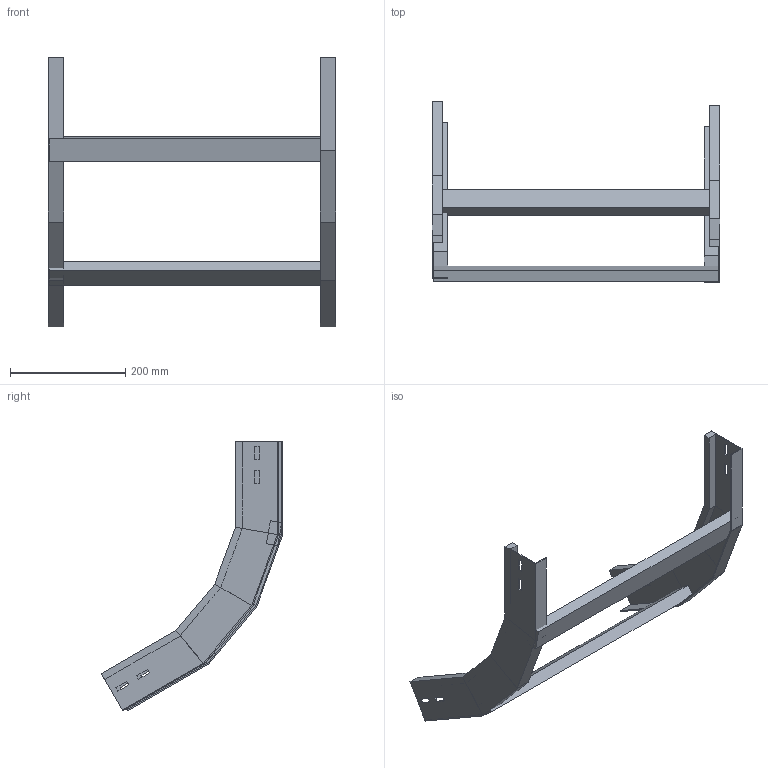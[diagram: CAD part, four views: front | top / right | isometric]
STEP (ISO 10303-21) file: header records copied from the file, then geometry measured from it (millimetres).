
FILE_DESCRIPTION (( 'STEP AP214' ), '1' );
FILE_NAME ('A2X40B3C500XX.step', '2025-04-02T09:30:07', ( '' ), ( '' ), 'SwSTEP 2.0', 'SolidWorks 2023', '' );
FILE_SCHEMA (( 'AUTOMOTIVE_DESIGN' ));
Length unit declared in the file: millimetre
Products named in the file (3): LONGH.SALITA_60°_H75_R300; A2X40B3C500XX; TRAVERSINO_500
Assembly tree (4 placements, depth 2):
  A2X40B3C500XX
    LONGH.SALITA_60°_H75_R300  x2
    TRAVERSINO_500  x2
Bounding box: 500 x 315.85 x 469.15 mm (x, y, z)
Volume: 1223106 mm3; surface area: 384503.6 mm2
Topology: 4 solids, 4 shells, 112 faces, 264 edges, 160 vertices
Faces by surface type: plane 112
Entity records: 1664 total; most frequent: CARTESIAN_POINT 275, ORIENTED_EDGE 264, DIRECTION 258, VECTOR 132, EDGE_CURVE 132, LINE 132, VERTEX_POINT 80, EDGE_LOOP 64
